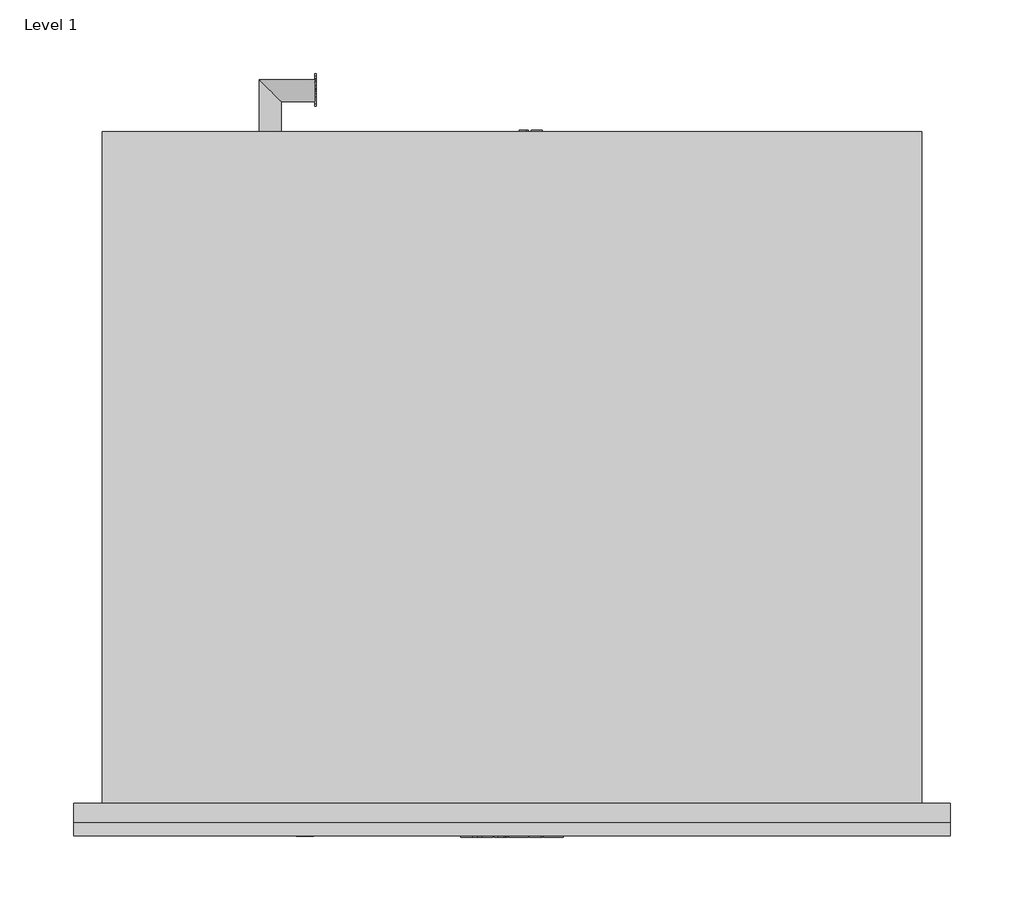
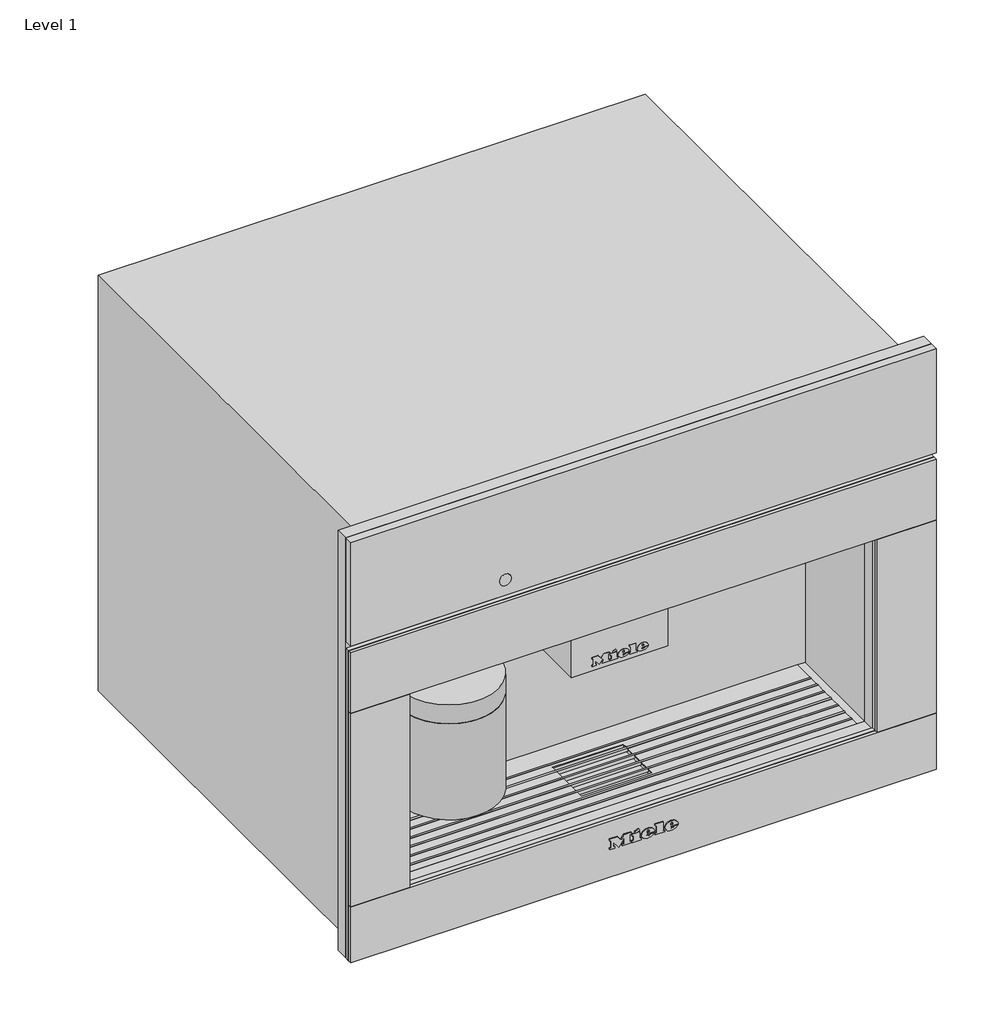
# One storey: 1 proxy.
"""IFC4 building model written with IfcOpenShell, lengths in millimetres."""

from ifc_helpers import new_model, si_unit, origin, place, context, project, spatial, transform, mapped, element, save
from components import specialty_equipment_4e86796f

model = new_model("IFC4")

# Units and contexts
model_context = context("Model", 3, world=origin())
ifc_project = project(units=[si_unit("LENGTHUNIT", "METRE", prefix="MILLI")], contexts=[model_context])

# Site, building, storey
site = spatial("IfcSite", under=ifc_project)
building = spatial("IfcBuilding", under=site)
storey = spatial("IfcBuildingStorey", under=building, Name="Level 1", Elevation=0.0)

# Proxy
placement = place(None, origin())
specialty_equipment_shape = specialty_equipment_4e86796f(model_context)
element("IfcBuildingElementProxy", 1, Name="11165800_RU_CVA7845_BRWS : 29784510_RU_11165800_CVA7845_BRWS", ObjectType="11165800_RU_CVA7845_BRWS : 29784510_RU_11165800_CVA7845_BRWS", at=placement, inside=storey, context=model_context, shape_type="MappedRepresentation", body=[
    mapped(specialty_equipment_shape, transform((0.0, 0.0, 0.0), x_axis=(1.0, 0.0, 0.0), y_axis=(0.0, 1.0, 0.0), z_axis=(0.0, 0.0, 1.0))),
])

save(model, "model.ifc")
